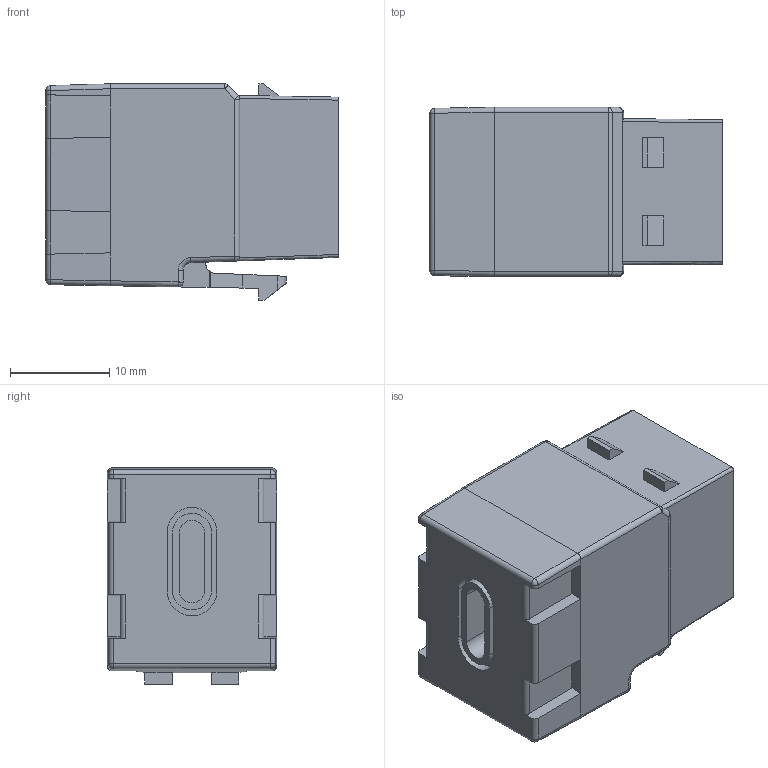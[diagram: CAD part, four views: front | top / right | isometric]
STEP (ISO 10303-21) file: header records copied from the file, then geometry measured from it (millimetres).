
FILE_DESCRIPTION( ('This file contains a STEP AP42 implementation' ,'as created by ZW3D STEP Interface translator.') ,'2;1' );
FILE_NAME( 'TB-021_SY-USB-31-C-WH_SD.stp' ,'26 330.134527', (''), ('ZWCAD Software Co.'), 'Version 1.0', 'ZW3D to STEP translator', '' );
FILE_SCHEMA(('AUTOMOTIVE_DESIGN'));
Length unit declared in the file: millimetre
Products named in the file (2): 0; TB-021_SY-USB-31-C-WH_SD
Bounding box: 29.39 x 17 x 21.76 mm (x, y, z)
Volume: 8523.9 mm3; surface area: 3360 mm2
Topology: 3 solids, 3 shells, 156 faces, 382 edges, 234 vertices
Faces by surface type: bspline 156
Entity records: 7867 total; most frequent: CARTESIAN_POINT 5356, ORIENTED_EDGE 756, B_SPLINE_CURVE_WITH_KNOTS 378, EDGE_CURVE 378, VERTEX_POINT 234, EDGE_LOOP 162, FACE_OUTER_BOUND 156, ADVANCED_FACE 156
